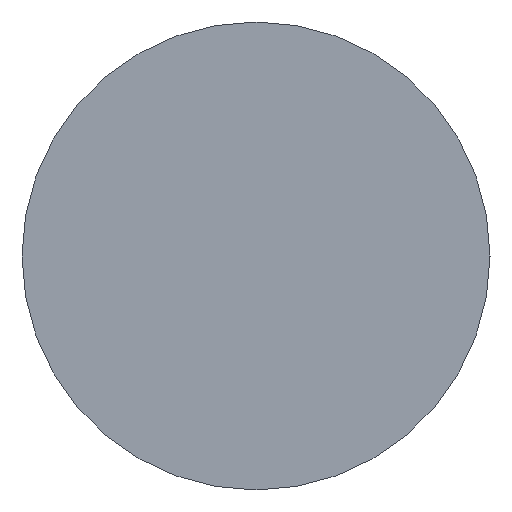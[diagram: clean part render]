
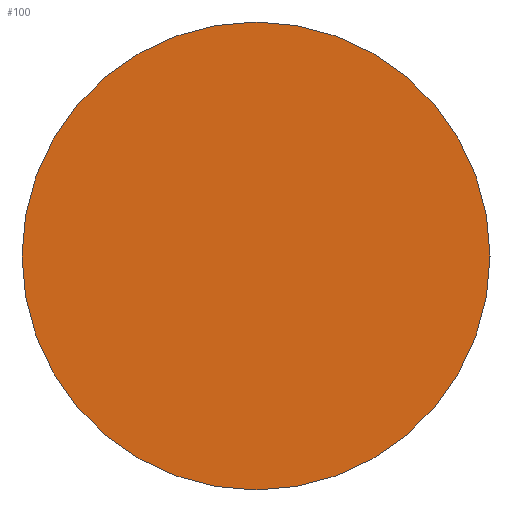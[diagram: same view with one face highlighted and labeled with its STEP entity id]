
A CAD part, left-side view. The second image highlights one B-rep face of the part: STEP entity #100.
In plain terms, the highlighted planar face has unit normal (-1, 0, 0).
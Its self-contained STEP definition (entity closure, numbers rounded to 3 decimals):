
#26 = CARTESIAN_POINT ( 'NONE',  ( -1.8, 0.7, -0.7 ) ) ;
#27 = VERTEX_POINT ( 'NONE', #26 ) ;
#34 = CARTESIAN_POINT ( 'NONE',  ( -1.8, 0.7, 0.7 ) ) ;
#35 = VERTEX_POINT ( 'NONE', #34 ) ;
#36 = CARTESIAN_POINT ( 'NONE',  ( -1.8, 0.7, 0. ) ) ;
#37 = DIRECTION ( 'NONE',  ( -1., 0., 0. ) ) ;
#38 = DIRECTION ( 'NONE',  ( 0., 0., 1. ) ) ;
#39 = AXIS2_PLACEMENT_3D ( 'NONE', #36, #37, #38 ) ;
#40 = CIRCLE ( 'NONE', #39, 0.7) ;
#41 = EDGE_CURVE ( 'NONE', #35, #27, #40, .T. ) ;
#76 = CARTESIAN_POINT ( 'NONE',  ( -1.8, 0.7, 0. ) ) ;
#77 = DIRECTION ( 'NONE',  ( -1., 0., 0. ) ) ;
#78 = DIRECTION ( 'NONE',  ( 0., 0., 1. ) ) ;
#79 = AXIS2_PLACEMENT_3D ( 'NONE', #76, #77, #78 ) ;
#80 = CIRCLE ( 'NONE', #79, 0.7) ;
#81 = EDGE_CURVE ( 'NONE', #27, #35, #80, .T. ) ;
#91 = ORIENTED_EDGE ( 'NONE', *, *, #41, .T. ) ;
#92 = ORIENTED_EDGE ( 'NONE', *, *, #81, .T. ) ;
#93 = EDGE_LOOP ( 'NONE', ( #91, #92 ) ) ;
#94 = FACE_OUTER_BOUND ( 'NONE', #93, .T. ) ;
#95 = CARTESIAN_POINT ( 'NONE',  ( -1.8, 0., 0. ) ) ;
#96 = DIRECTION ( 'NONE',  ( -1., 0., 0. ) ) ;
#97 = DIRECTION ( 'NONE',  ( 0., 0., 1. ) ) ;
#98 = AXIS2_PLACEMENT_3D ( 'NONE', #95, #96, #97 ) ;
#99 = PLANE ( 'NONE', #98 ) ;
#100 = ADVANCED_FACE ( 'NONE', ( #94 ), #99, .T. ) ;
